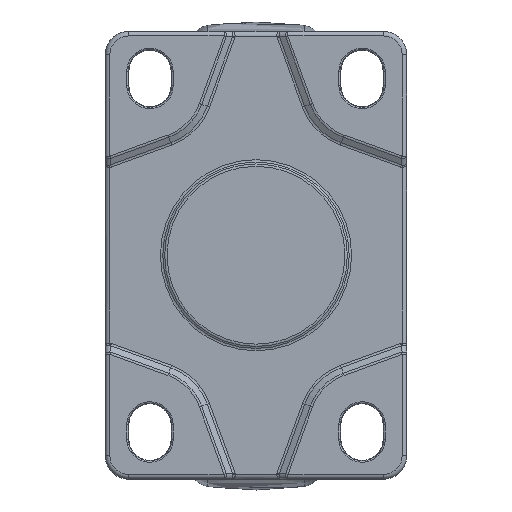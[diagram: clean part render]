
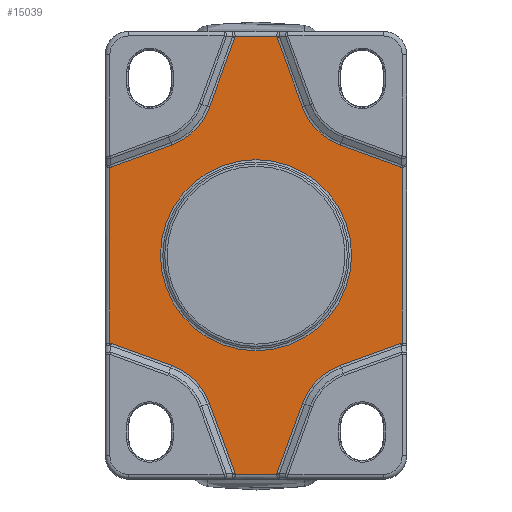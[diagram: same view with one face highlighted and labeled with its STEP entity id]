
A CAD part, top view. The second image highlights one B-rep face of the part: STEP entity #15039.
In plain terms, the highlighted planar face has unit normal (0, 0, 1).
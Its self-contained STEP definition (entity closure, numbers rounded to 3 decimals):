
#32=FACE_BOUND('',#3098,.T.);
#803=CIRCLE('',#16052,13.453);
#814=CIRCLE('',#16079,13.453);
#825=CIRCLE('',#16106,13.453);
#836=CIRCLE('',#16133,13.453);
#885=CIRCLE('',#16224,20.268);
#2163=FACE_OUTER_BOUND('',#3097,.T.);
#3097=EDGE_LOOP('',(#10665,#10666,#10667,#10668,#10669,#10670,#10671,#10672,
#10673,#10674,#10675,#10676,#10677,#10678,#10679,#10680,#10681,#10682,#10683,
#10684,#10685,#10686,#10687,#10688));
#3098=EDGE_LOOP('',(#10689));
#3912=ELLIPSE('',#16046,4.194,2.);
#3914=ELLIPSE('',#16057,4.194,2.);
#3920=ELLIPSE('',#16073,4.194,2.);
#3922=ELLIPSE('',#16084,4.194,2.);
#3928=ELLIPSE('',#16100,4.194,2.);
#3930=ELLIPSE('',#16111,4.194,2.);
#3936=ELLIPSE('',#16127,4.194,2.);
#3938=ELLIPSE('',#16138,4.194,2.);
#4147=LINE('',#22206,#5114);
#4149=LINE('',#22218,#5116);
#4159=LINE('',#22337,#5126);
#4161=LINE('',#22349,#5128);
#4171=LINE('',#22468,#5138);
#4173=LINE('',#22480,#5140);
#4183=LINE('',#22599,#5150);
#4185=LINE('',#22611,#5152);
#4204=LINE('',#22777,#5171);
#4205=LINE('',#22778,#5172);
#4206=LINE('',#22779,#5173);
#4207=LINE('',#22780,#5174);
#5114=VECTOR('',#17793,10.);
#5116=VECTOR('',#17807,10.);
#5126=VECTOR('',#17859,10.);
#5128=VECTOR('',#17873,10.);
#5138=VECTOR('',#17925,10.);
#5140=VECTOR('',#17939,10.);
#5150=VECTOR('',#17991,10.);
#5152=VECTOR('',#18005,10.);
#5171=VECTOR('',#18202,10.);
#5172=VECTOR('',#18203,10.);
#5173=VECTOR('',#18204,10.);
#5174=VECTOR('',#18205,10.);
#6185=VERTEX_POINT('',#22176);
#6188=VERTEX_POINT('',#22198);
#6190=VERTEX_POINT('',#22204);
#6192=VERTEX_POINT('',#22210);
#6194=VERTEX_POINT('',#22216);
#6196=VERTEX_POINT('',#22237);
#6205=VERTEX_POINT('',#22307);
#6208=VERTEX_POINT('',#22329);
#6210=VERTEX_POINT('',#22335);
#6212=VERTEX_POINT('',#22341);
#6214=VERTEX_POINT('',#22347);
#6216=VERTEX_POINT('',#22368);
#6225=VERTEX_POINT('',#22438);
#6228=VERTEX_POINT('',#22460);
#6230=VERTEX_POINT('',#22466);
#6232=VERTEX_POINT('',#22472);
#6234=VERTEX_POINT('',#22478);
#6236=VERTEX_POINT('',#22499);
#6245=VERTEX_POINT('',#22569);
#6248=VERTEX_POINT('',#22591);
#6250=VERTEX_POINT('',#22597);
#6252=VERTEX_POINT('',#22603);
#6254=VERTEX_POINT('',#22609);
#6256=VERTEX_POINT('',#22630);
#6276=VERTEX_POINT('',#22773);
#7780=EDGE_CURVE('',#6188,#6185,#3912,.T.);
#7783=EDGE_CURVE('',#6190,#6188,#4147,.T.);
#7786=EDGE_CURVE('',#6192,#6190,#803,.T.);
#7789=EDGE_CURVE('',#6194,#6192,#4149,.T.);
#7792=EDGE_CURVE('',#6196,#6194,#3914,.T.);
#7811=EDGE_CURVE('',#6208,#6205,#3920,.T.);
#7814=EDGE_CURVE('',#6210,#6208,#4159,.T.);
#7817=EDGE_CURVE('',#6212,#6210,#814,.T.);
#7820=EDGE_CURVE('',#6214,#6212,#4161,.T.);
#7823=EDGE_CURVE('',#6216,#6214,#3922,.T.);
#7842=EDGE_CURVE('',#6228,#6225,#3928,.T.);
#7845=EDGE_CURVE('',#6230,#6228,#4171,.T.);
#7848=EDGE_CURVE('',#6232,#6230,#825,.T.);
#7851=EDGE_CURVE('',#6234,#6232,#4173,.T.);
#7854=EDGE_CURVE('',#6236,#6234,#3930,.T.);
#7873=EDGE_CURVE('',#6248,#6245,#3936,.T.);
#7876=EDGE_CURVE('',#6250,#6248,#4183,.T.);
#7879=EDGE_CURVE('',#6252,#6250,#836,.T.);
#7882=EDGE_CURVE('',#6254,#6252,#4185,.T.);
#7885=EDGE_CURVE('',#6256,#6254,#3938,.T.);
#7951=EDGE_CURVE('',#6276,#6276,#885,.T.);
#7952=EDGE_CURVE('',#6196,#6205,#4204,.T.);
#7953=EDGE_CURVE('',#6225,#6216,#4205,.T.);
#7954=EDGE_CURVE('',#6236,#6245,#4206,.F.);
#7955=EDGE_CURVE('',#6185,#6256,#4207,.T.);
#10665=ORIENTED_EDGE('',*,*,#7792,.F.);
#10666=ORIENTED_EDGE('',*,*,#7952,.T.);
#10667=ORIENTED_EDGE('',*,*,#7811,.F.);
#10668=ORIENTED_EDGE('',*,*,#7814,.F.);
#10669=ORIENTED_EDGE('',*,*,#7817,.F.);
#10670=ORIENTED_EDGE('',*,*,#7820,.F.);
#10671=ORIENTED_EDGE('',*,*,#7823,.F.);
#10672=ORIENTED_EDGE('',*,*,#7953,.F.);
#10673=ORIENTED_EDGE('',*,*,#7842,.F.);
#10674=ORIENTED_EDGE('',*,*,#7845,.F.);
#10675=ORIENTED_EDGE('',*,*,#7848,.F.);
#10676=ORIENTED_EDGE('',*,*,#7851,.F.);
#10677=ORIENTED_EDGE('',*,*,#7854,.F.);
#10678=ORIENTED_EDGE('',*,*,#7954,.T.);
#10679=ORIENTED_EDGE('',*,*,#7873,.F.);
#10680=ORIENTED_EDGE('',*,*,#7876,.F.);
#10681=ORIENTED_EDGE('',*,*,#7879,.F.);
#10682=ORIENTED_EDGE('',*,*,#7882,.F.);
#10683=ORIENTED_EDGE('',*,*,#7885,.F.);
#10684=ORIENTED_EDGE('',*,*,#7955,.F.);
#10685=ORIENTED_EDGE('',*,*,#7780,.F.);
#10686=ORIENTED_EDGE('',*,*,#7783,.F.);
#10687=ORIENTED_EDGE('',*,*,#7786,.F.);
#10688=ORIENTED_EDGE('',*,*,#7789,.F.);
#10689=ORIENTED_EDGE('',*,*,#7951,.F.);
#14608=PLANE('',#16225);
#15039=ADVANCED_FACE('',(#2163,#32),#14608,.F.);
#16046=AXIS2_PLACEMENT_3D('',#22200,#17785,#17786);
#16052=AXIS2_PLACEMENT_3D('',#22212,#17799,#17800);
#16057=AXIS2_PLACEMENT_3D('',#22239,#17811,#17812);
#16073=AXIS2_PLACEMENT_3D('',#22331,#17851,#17852);
#16079=AXIS2_PLACEMENT_3D('',#22343,#17865,#17866);
#16084=AXIS2_PLACEMENT_3D('',#22370,#17877,#17878);
#16100=AXIS2_PLACEMENT_3D('',#22462,#17917,#17918);
#16106=AXIS2_PLACEMENT_3D('',#22474,#17931,#17932);
#16111=AXIS2_PLACEMENT_3D('',#22501,#17943,#17944);
#16127=AXIS2_PLACEMENT_3D('',#22593,#17983,#17984);
#16133=AXIS2_PLACEMENT_3D('',#22605,#17997,#17998);
#16138=AXIS2_PLACEMENT_3D('',#22632,#18009,#18010);
#16224=AXIS2_PLACEMENT_3D('',#22775,#18198,#18199);
#16225=AXIS2_PLACEMENT_3D('',#22776,#18200,#18201);
#17785=DIRECTION('center_axis',(0.,0.,1.));
#17786=DIRECTION('ref_axis',(1.,0.,0.));
#17793=DIRECTION('',(0.342,0.94,0.));
#17799=DIRECTION('center_axis',(0.,0.,1.));
#17800=DIRECTION('ref_axis',(0.707,-0.707,0.));
#17807=DIRECTION('',(0.94,0.342,0.));
#17811=DIRECTION('center_axis',(0.,0.,1.));
#17812=DIRECTION('ref_axis',(0.,-1.,0.));
#17851=DIRECTION('center_axis',(0.,0.,1.));
#17852=DIRECTION('ref_axis',(0.,1.,0.));
#17859=DIRECTION('',(-0.94,0.342,0.));
#17865=DIRECTION('center_axis',(0.,0.,1.));
#17866=DIRECTION('ref_axis',(0.707,0.707,0.));
#17873=DIRECTION('',(-0.342,0.94,0.));
#17877=DIRECTION('center_axis',(0.,0.,1.));
#17878=DIRECTION('ref_axis',(1.,0.,0.));
#17917=DIRECTION('center_axis',(0.,0.,1.));
#17918=DIRECTION('ref_axis',(-1.,0.,0.));
#17925=DIRECTION('',(-0.342,-0.94,0.));
#17931=DIRECTION('center_axis',(0.,0.,1.));
#17932=DIRECTION('ref_axis',(-0.707,0.707,0.));
#17939=DIRECTION('',(-0.94,-0.342,0.));
#17943=DIRECTION('center_axis',(0.,0.,1.));
#17944=DIRECTION('ref_axis',(0.,1.,0.));
#17983=DIRECTION('center_axis',(0.,0.,1.));
#17984=DIRECTION('ref_axis',(0.,-1.,0.));
#17991=DIRECTION('',(0.94,-0.342,0.));
#17997=DIRECTION('center_axis',(0.,0.,1.));
#17998=DIRECTION('ref_axis',(-0.707,-0.707,0.));
#18005=DIRECTION('',(0.342,-0.94,0.));
#18009=DIRECTION('center_axis',(0.,0.,1.));
#18010=DIRECTION('ref_axis',(-1.,0.,0.));
#18198=DIRECTION('center_axis',(0.,0.,1.));
#18199=DIRECTION('ref_axis',(0.,1.,0.));
#18200=DIRECTION('center_axis',(0.,0.,-1.));
#18201=DIRECTION('ref_axis',(0.,1.,0.));
#18202=DIRECTION('',(0.,-1.,0.));
#18203=DIRECTION('',(-1.,0.,0.));
#18204=DIRECTION('',(0.,-1.,0.));
#18205=DIRECTION('',(1.,0.,0.));
#22176=CARTESIAN_POINT('',(-4.425,46.5,0.));
#22198=CARTESIAN_POINT('',(-4.487,46.158,0.));
#22200=CARTESIAN_POINT('Origin',(-8.619,46.5,0.));
#22204=CARTESIAN_POINT('',(-9.858,31.399,0.));
#22206=CARTESIAN_POINT('',(-13.392,21.691,0.));
#22210=CARTESIAN_POINT('',(-17.899,23.358,0.));
#22212=CARTESIAN_POINT('Origin',(-22.5,36.,0.));
#22216=CARTESIAN_POINT('',(-30.658,18.714,0.));
#22218=CARTESIAN_POINT('',(-13.394,24.998,0.));
#22237=CARTESIAN_POINT('',(-31.,18.653,0.));
#22239=CARTESIAN_POINT('Origin',(-31.,22.847,0.));
#22307=CARTESIAN_POINT('',(-31.,-18.653,0.));
#22329=CARTESIAN_POINT('',(-30.658,-18.714,0.));
#22331=CARTESIAN_POINT('Origin',(-31.,-22.847,0.));
#22335=CARTESIAN_POINT('',(-17.899,-23.358,0.));
#22337=CARTESIAN_POINT('',(-13.394,-24.998,0.));
#22341=CARTESIAN_POINT('',(-9.858,-31.399,0.));
#22343=CARTESIAN_POINT('Origin',(-22.5,-36.,0.));
#22347=CARTESIAN_POINT('',(-4.487,-46.158,0.));
#22349=CARTESIAN_POINT('',(-13.392,-21.691,0.));
#22368=CARTESIAN_POINT('',(-4.425,-46.5,0.));
#22370=CARTESIAN_POINT('Origin',(-8.619,-46.5,0.));
#22438=CARTESIAN_POINT('',(4.425,-46.5,0.));
#22460=CARTESIAN_POINT('',(4.487,-46.158,0.));
#22462=CARTESIAN_POINT('Origin',(8.619,-46.5,0.));
#22466=CARTESIAN_POINT('',(9.858,-31.399,0.));
#22468=CARTESIAN_POINT('',(15.263,-16.549,0.));
#22472=CARTESIAN_POINT('',(17.899,-23.358,0.));
#22474=CARTESIAN_POINT('Origin',(22.5,-36.,0.));
#22478=CARTESIAN_POINT('',(30.658,-18.714,0.));
#22480=CARTESIAN_POINT('',(27.523,-19.856,0.));
#22499=CARTESIAN_POINT('',(31.,-18.653,0.));
#22501=CARTESIAN_POINT('Origin',(31.,-22.847,0.));
#22569=CARTESIAN_POINT('',(31.,18.653,0.));
#22591=CARTESIAN_POINT('',(30.658,18.714,0.));
#22593=CARTESIAN_POINT('Origin',(31.,22.847,0.));
#22597=CARTESIAN_POINT('',(17.899,23.358,0.));
#22599=CARTESIAN_POINT('',(27.523,19.856,0.));
#22603=CARTESIAN_POINT('',(9.858,31.399,0.));
#22605=CARTESIAN_POINT('Origin',(22.5,36.,0.));
#22609=CARTESIAN_POINT('',(4.487,46.158,0.));
#22611=CARTESIAN_POINT('',(15.263,16.549,0.));
#22630=CARTESIAN_POINT('',(4.425,46.5,0.));
#22632=CARTESIAN_POINT('Origin',(8.619,46.5,0.));
#22773=CARTESIAN_POINT('',(0.,-20.268,0.));
#22775=CARTESIAN_POINT('Origin',(0.,0.,0.));
#22776=CARTESIAN_POINT('Origin',(16.,0.,0.));
#22777=CARTESIAN_POINT('',(-31.,23.75,0.));
#22778=CARTESIAN_POINT('',(24.,-46.5,0.));
#22779=CARTESIAN_POINT('',(31.,23.75,0.));
#22780=CARTESIAN_POINT('',(8.,46.5,0.));
